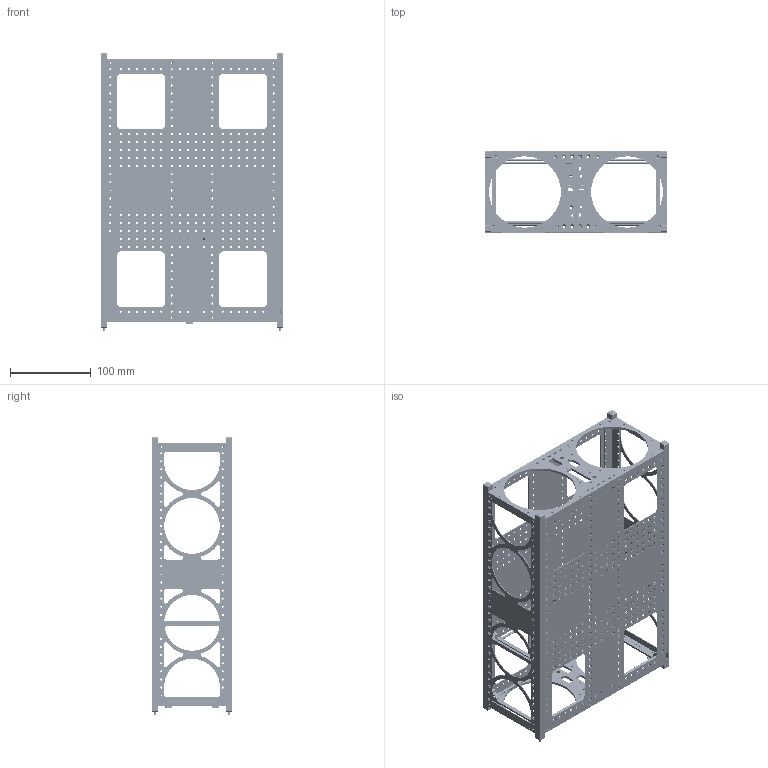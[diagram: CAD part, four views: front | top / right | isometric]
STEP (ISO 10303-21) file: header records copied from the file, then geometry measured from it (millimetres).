
FILE_DESCRIPTION (( 'STEP AP214' ), '1' );
FILE_NAME ('3D-01-02747 RevC - Standard 6U Structure 2U Stack.STEP', '2022-12-17T19:48:42', ( '' ), ( '' ), 'SwSTEP 2.0', 'SolidWorks 2021', '' );
FILE_SCHEMA (( 'AUTOMOTIVE_DESIGN' ));
Length unit declared in the file: millimetre
Products named in the file (1): 3D-01-02747 RevC - Standard 6U Structure 2U Stack
Bounding box: 226.3 x 100 x 344.35 mm (x, y, z)
Volume: 249842.5 mm3; surface area: 426019.7 mm2
Topology: 19 solids, 23 shells, 6838 faces, 19297 edges, 13504 vertices
Faces by surface type: cylinder 4549, plane 2056, cone 192, torus 32, sphere 8, bspline 1
Entity records: 301675 total; most frequent: DIRECTION 42847, CARTESIAN_POINT 40322, ORIENTED_EDGE 38546, EDGE_CURVE 19273, AXIS2_PLACEMENT_3D 16881, VERTEX_POINT 13504, EDGE_LOOP 10353, CIRCLE 10043
